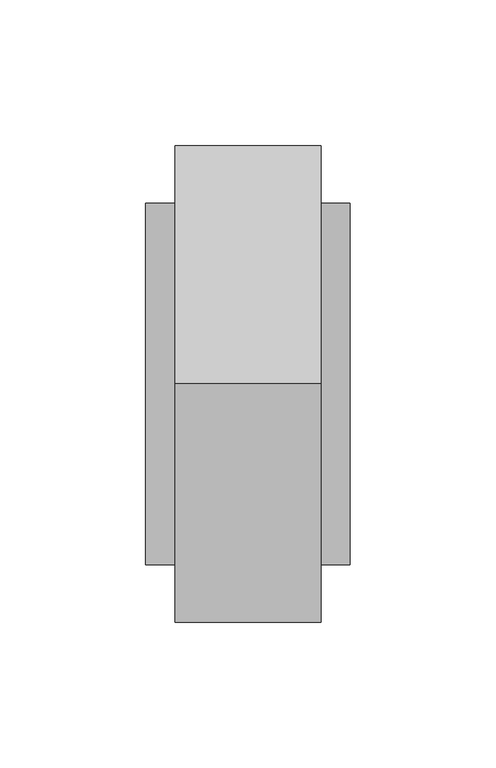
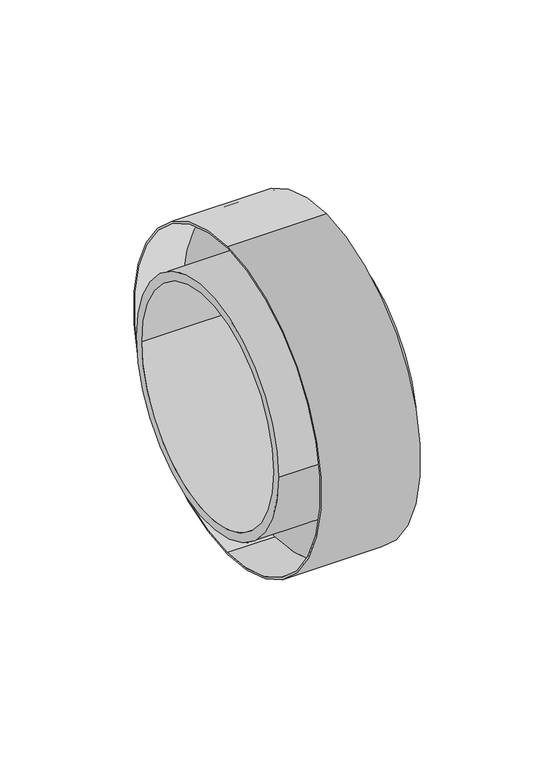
"""IFC4 building model written with IfcOpenShell, lengths in millimetres: duct fitting geometry, HEATPEX - ARIA ADURO - Łącznik z uszczelką : HEATPEX - ARIA ADURO - Łącznik z uszczelką."""

from ifc_helpers import new_model, si_unit, frame, origin, place, context, project, spatial, polyline, circle_curve, source, transform, mapped, element, save
from ifc_brep_helpers import plane_surface, cylinder_surface, revolved_surface, advanced_brep


def duct_fitting_1b19f706(model_context):
    return source(origin(), model_context, "Body", "AdvancedBrep", [
        advanced_brep(
        [(-1.0, 0.0, 81.0), (-1.0, 0.0, -81.0), (-1.0, 0.0, 62.0), (-1.0, -62.0, 0.0), (-1.0, 0.0, -62.0), (-1.0, 62.0, 0.0), (1.0, 0.0, -81.0), (1.0, 0.0, 81.0), (1.0, -62.0, 0.0), (1.0, 0.0, 62.0), (1.0, 62.0, 0.0), (1.0, 0.0, -62.0), (-25.0, 0.0, -82.0), (-25.0, 0.0, 82.0), (-25.0, 0.0, -81.0), (-25.0, 0.0, 81.0), (25.0, 0.0, -82.0), (25.0, 0.0, 82.0), (25.0, 0.0, -81.0), (25.0, 0.0, 81.0), (-35.0, -62.0, 0.0), (-35.0, 62.0, 0.0), (-35.0, -57.5, 0.0), (-35.0, 57.5, 0.0), (35.0, -62.0, 0.0), (35.0, 62.0, 0.0), (35.0, -57.5, 0.0), (35.0, 57.5, 0.0)],
        [
            (0, 1, circle_curve(frame((-1.0, 0.0, 0.0), z_axis=(-1.0, 0.0, 0.0), x_axis=(0.0, 0.0, 1.0)), 81.0)),
            (1, 0, circle_curve(frame((-1.0, 0.0, 0.0), z_axis=(-1.0, 0.0, 0.0), x_axis=(0.0, 0.0, 1.0)), 81.0)),
            (2, 3, circle_curve(frame((-1.0, 0.0, 0.0), z_axis=(1.0, 0.0, 0.0), x_axis=(0.0, 1.0, 0.0)), 62.0)),
            (3, 4, circle_curve(frame((-1.0, 0.0, 0.0), z_axis=(1.0, 0.0, 0.0), x_axis=(0.0, 1.0, 0.0)), 62.0)),
            (4, 5, circle_curve(frame((-1.0, 0.0, 0.0), z_axis=(1.0, 0.0, 0.0), x_axis=(0.0, 1.0, 0.0)), 62.0)),
            (5, 2, circle_curve(frame((-1.0, 0.0, 0.0), z_axis=(1.0, 0.0, 0.0), x_axis=(0.0, 1.0, 0.0)), 62.0)),
            (6, 7, circle_curve(frame((1.0, 0.0, 0.0), z_axis=(1.0, 0.0, 0.0), x_axis=(0.0, 0.0, 1.0)), 81.0)),
            (7, 6, circle_curve(frame((1.0, 0.0, 0.0), z_axis=(1.0, 0.0, 0.0), x_axis=(0.0, 0.0, 1.0)), 81.0)),
            (8, 9, circle_curve(frame((1.0, 0.0, 0.0), z_axis=(-1.0, 0.0, 0.0), x_axis=(0.0, 1.0, 0.0)), 62.0)),
            (9, 10, circle_curve(frame((1.0, 0.0, 0.0), z_axis=(-1.0, 0.0, 0.0), x_axis=(0.0, 1.0, 0.0)), 62.0)),
            (10, 11, circle_curve(frame((1.0, 0.0, 0.0), z_axis=(-1.0, 0.0, 0.0), x_axis=(0.0, 1.0, 0.0)), 62.0)),
            (11, 8, circle_curve(frame((1.0, 0.0, 0.0), z_axis=(-1.0, 0.0, 0.0), x_axis=(0.0, 1.0, 0.0)), 62.0)),
            (12, 13, circle_curve(frame((-25.0, 0.0, 0.0), z_axis=(-1.0, 0.0, 0.0), x_axis=(0.0, 0.0, 1.0)), 82.0)),
            (13, 12, circle_curve(frame((-25.0, 0.0, 0.0), z_axis=(-1.0, 0.0, 0.0), x_axis=(0.0, 0.0, 1.0)), 82.0)),
            (14, 15, circle_curve(frame((-25.0, 0.0, 0.0), z_axis=(1.0, 0.0, 0.0), x_axis=(0.0, 0.0, 1.0)), 81.0)),
            (15, 14, circle_curve(frame((-25.0, 0.0, 0.0), z_axis=(1.0, 0.0, 0.0), x_axis=(0.0, 0.0, 1.0)), 81.0)),
            (16, 17, circle_curve(frame((25.0, 0.0, 0.0), z_axis=(1.0, 0.0, 0.0), x_axis=(0.0, 0.0, 1.0)), 82.0)),
            (17, 16, circle_curve(frame((25.0, 0.0, 0.0), z_axis=(1.0, 0.0, 0.0), x_axis=(0.0, 0.0, 1.0)), 82.0)),
            (18, 19, circle_curve(frame((25.0, 0.0, 0.0), z_axis=(-1.0, 0.0, 0.0), x_axis=(0.0, 0.0, 1.0)), 81.0)),
            (19, 18, circle_curve(frame((25.0, 0.0, 0.0), z_axis=(-1.0, 0.0, 0.0), x_axis=(0.0, 0.0, 1.0)), 81.0)),
            (14, 1),
            (0, 15),
            (19, 7),
            (6, 18),
            (12, 16),
            (17, 13),
            (20, 21, circle_curve(frame((-35.0, 0.0, 0.0), z_axis=(-1.0, 0.0, 0.0), x_axis=(0.0, 1.0, 0.0)), 62.0)),
            (21, 20, circle_curve(frame((-35.0, 0.0, 0.0), z_axis=(-1.0, 0.0, 0.0), x_axis=(0.0, 1.0, 0.0)), 62.0)),
            (22, 23, circle_curve(frame((-35.0, 0.0, 0.0), z_axis=(1.0, 0.0, 0.0), x_axis=(0.0, 1.0, 0.0)), 57.5)),
            (23, 22, circle_curve(frame((-35.0, 0.0, 0.0), z_axis=(1.0, 0.0, 0.0), x_axis=(0.0, 1.0, 0.0)), 57.5)),
            (24, 25, circle_curve(frame((35.0, 0.0, 0.0), z_axis=(1.0, 0.0, 0.0), x_axis=(0.0, 1.0, 0.0)), 62.0)),
            (25, 24, circle_curve(frame((35.0, 0.0, 0.0), z_axis=(1.0, 0.0, 0.0), x_axis=(0.0, 1.0, 0.0)), 62.0)),
            (26, 27, circle_curve(frame((35.0, 0.0, 0.0), z_axis=(-1.0, 0.0, 0.0), x_axis=(0.0, 1.0, 0.0)), 57.5)),
            (27, 26, circle_curve(frame((35.0, 0.0, 0.0), z_axis=(-1.0, 0.0, 0.0), x_axis=(0.0, 1.0, 0.0)), 57.5)),
            (22, 26),
            (27, 23),
            (20, 3),
            (5, 21),
            (25, 10),
            (8, 24),
        ],
        [
            plane_surface(frame((-1.0, 0.0, 0.0), z_axis=(-1.0, 0.0, 0.0), x_axis=(0.0, -1.0, 0.0))),
            plane_surface(frame((1.0, 0.0, 0.0), z_axis=(1.0, 0.0, 0.0), x_axis=(0.0, -1.0, 0.0))),
            plane_surface(frame((-25.0, 0.0, 0.0), z_axis=(-1.0, 0.0, 0.0), x_axis=(0.0, -1.0, 0.0))),
            plane_surface(frame((25.0, 0.0, 0.0), z_axis=(1.0, 0.0, 0.0), x_axis=(0.0, -1.0, 0.0))),
            revolved_surface(polyline([(-1.0, 0.0, 81.0), (-25.0, 0.0, 81.0)]), (-25.0, 0.0, 0.0), (1.0, 0.0, 0.0)),
            revolved_surface(polyline([(25.0, 0.0, 81.0), (1.0, 0.0, 81.0)]), (-25.0, 0.0, 0.0), (1.0, 0.0, 0.0)),
            cylinder_surface(frame((-25.0, 0.0, 0.0), z_axis=(-1.0, 0.0, 0.0), x_axis=(0.0, 0.0, 1.0)), 82.0),
            plane_surface(frame((-35.0, 0.0, 0.0), z_axis=(-1.0, 0.0, 0.0), x_axis=(0.0, 0.0, 1.0))),
            plane_surface(frame((35.0, 0.0, 0.0), z_axis=(1.0, 0.0, 0.0), x_axis=(0.0, 0.0, 1.0))),
            revolved_surface(polyline([(35.0, 57.5, 0.0), (-35.0, 57.5, 0.0)]), (-35.0, 0.0, 0.0), (1.0, 0.0, 0.0)),
            cylinder_surface(frame((-35.0, 0.0, 0.0), z_axis=(-1.0, 0.0, 0.0), x_axis=(0.0, 1.0, 0.0)), 62.0),
        ],
        [
            (0, [[1, 2], [3, 4, 5, 6]]),
            (1, [[7, 8], [9, 10, 11, 12]]),
            (2, [[13, 14], [15, 16]]),
            (3, [[17, 18], [19, 20]]),
            (4, [[-15, 21, -1, 22]]),
            (5, [[-20, 23, -7, 24]]),
            (4, [[-16, -22, -2, -21]]),
            (5, [[-19, -24, -8, -23]]),
            (6, [[-13, 25, -18, 26]]),
            (6, [[-14, -26, -17, -25]]),
            (7, [[27, 28], [29, 30]]),
            (8, [[31, 32], [33, 34]]),
            (9, [[-29, 35, -34, 36]]),
            (9, [[-30, -36, -33, -35]]),
            (10, [[-27, 37, -3, -6, 38]]),
            (10, [[-32, 39, -10, -9, 40]]),
            (10, [[-28, -38, -5, -4, -37]]),
            (10, [[-31, -40, -12, -11, -39]]),
        ],
    ),
    ])


if __name__ == "__main__":
    model = new_model("IFC4")
    model_context = context("Model", 3, world=origin())
    ifc_project = project(units=[si_unit("LENGTHUNIT", "METRE", prefix="MILLI")], contexts=[model_context])
    site = spatial("IfcSite", under=ifc_project)
    building = spatial("IfcBuilding", under=site)
    placement = place(None, origin())
    duct_fitting_shape = duct_fitting_1b19f706(model_context)
    element("IfcDuctFitting", 1, ObjectType="HEATPEX - ARIA ADURO - Łącznik z uszczelką : HEATPEX - ARIA ADURO - Łącznik z uszczelką", at=placement, inside=building, context=model_context, shape_type="MappedRepresentation", body=[
        mapped(duct_fitting_shape, transform((0.0, 0.0, 0.0), x_axis=(1.0, 0.0, 0.0), y_axis=(0.0, 1.0, 0.0), z_axis=(0.0, 0.0, 1.0))),
    ])
    save(model, "model.ifc")
